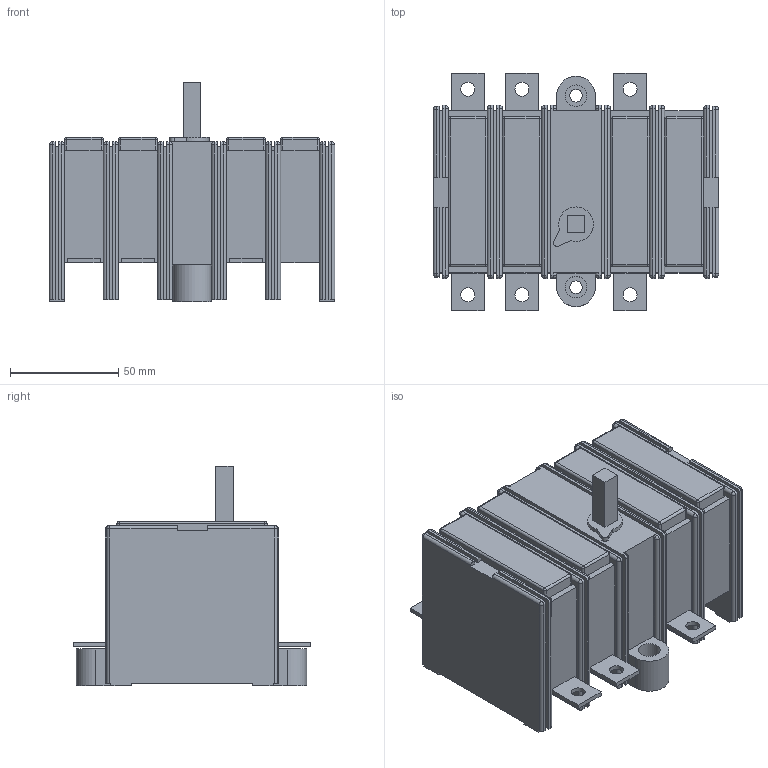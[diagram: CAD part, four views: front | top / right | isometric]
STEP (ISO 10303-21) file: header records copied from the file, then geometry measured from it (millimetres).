
FILE_DESCRIPTION(/* description */ (''),/* implementation_level */ '2;1');
FILE_NAME(/* name */ 'RA100 P3.stp',/* time_stamp */ '2021-08-17T12:53:46+02:00',/* author */ (''),/* organization */ (''),/* preprocessor_version */ 'ST-DEVELOPER v18.1',/* originating_system */ 'SIEMENS PLM Software NX 1965',/* authorisation */ '');
FILE_SCHEMA (('AUTOMOTIVE_DESIGN { 1 0 10303 214 3 1 1 1 }'));
Length unit declared in the file: millimetre
Products named in the file (1): RA100 P3_stp
Bounding box: 132 x 110 x 101.5 mm (x, y, z)
Volume: 658999.4 mm3; surface area: 76611.9 mm2
Topology: 1 solids, 1 shells, 357 faces, 955 edges, 564 vertices
Faces by surface type: plane 205, cylinder 112, sphere 39, bspline 1
Full cylindrical faces by diameter (mm): 5.8 x2, 6.5 x6, 10 x2
Entity records: 10646 total; most frequent: CARTESIAN_POINT 1865, DIRECTION 1836, ORIENTED_EDGE 1806, EDGE_CURVE 903, LINE 678, VECTOR 678, AXIS2_PLACEMENT_3D 579, VERTEX_POINT 562
